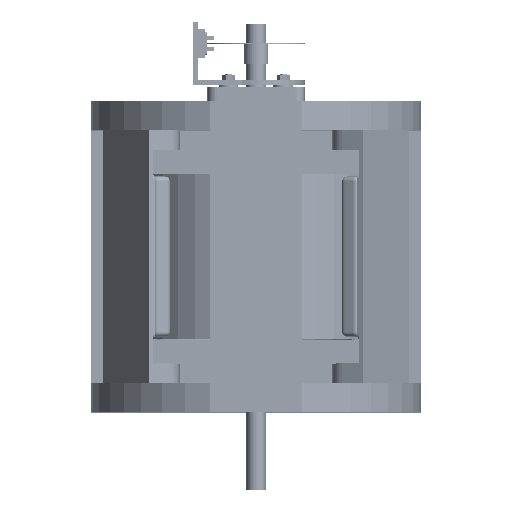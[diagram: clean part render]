
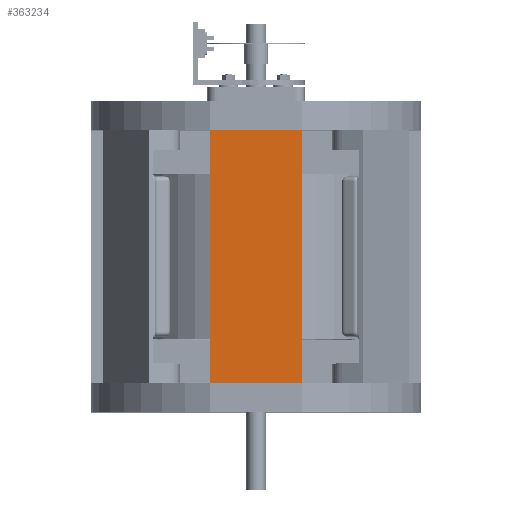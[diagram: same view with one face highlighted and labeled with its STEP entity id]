
A CAD part, top view. The second image highlights one B-rep face of the part: STEP entity #363234.
In plain terms, the highlighted planar face has unit normal (0, 0, 1).
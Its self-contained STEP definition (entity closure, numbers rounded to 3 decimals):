
#363092=CARTESIAN_POINT('',(60.51,165.1,254.));
#363093=VERTEX_POINT('',#363092);
#363094=CARTESIAN_POINT('',(-60.14,165.1,254.));
#363095=VERTEX_POINT('',#363094);
#363096=CARTESIAN_POINT('',(60.51,165.1,254.));
#363097=DIRECTION('',(-1.,0.,0.));
#363098=VECTOR('',#363097,120.65);
#363099=LINE('',#363096,#363098);
#363100=EDGE_CURVE('',#363093,#363095,#363099,.T.);
#363140=CARTESIAN_POINT('',(-60.14,-165.1,254.));
#363141=VERTEX_POINT('',#363140);
#363148=CARTESIAN_POINT('',(-60.14,165.1,254.));
#363149=DIRECTION('',(0.,-1.,0.));
#363150=VECTOR('',#363149,330.2);
#363151=LINE('',#363148,#363150);
#363152=EDGE_CURVE('',#363095,#363141,#363151,.T.);
#363163=CARTESIAN_POINT('',(60.51,-165.1,254.));
#363164=VERTEX_POINT('',#363163);
#363165=CARTESIAN_POINT('',(-60.14,-165.1,254.));
#363166=DIRECTION('',(1.,0.,-0.));
#363167=VECTOR('',#363166,120.65);
#363168=LINE('',#363165,#363167);
#363169=EDGE_CURVE('',#363141,#363164,#363168,.T.);
#363194=CARTESIAN_POINT('',(60.51,-165.1,254.));
#363195=DIRECTION('',(0.,1.,0.));
#363196=VECTOR('',#363195,330.2);
#363197=LINE('',#363194,#363196);
#363198=EDGE_CURVE('',#363164,#363093,#363197,.T.);
#363223=CARTESIAN_POINT('',(0.,0.,254.));
#363224=DIRECTION('',(0.,0.,1.));
#363225=DIRECTION('',(1.,0.,0.));
#363226=AXIS2_PLACEMENT_3D('',#363223,#363224,#363225);
#363227=PLANE('',#363226);
#363228=ORIENTED_EDGE('',*,*,#363152,.T.);
#363229=ORIENTED_EDGE('',*,*,#363169,.T.);
#363230=ORIENTED_EDGE('',*,*,#363198,.T.);
#363231=ORIENTED_EDGE('',*,*,#363100,.T.);
#363232=EDGE_LOOP('',(#363228,#363229,#363230,#363231));
#363233=FACE_BOUND('',#363232,.T.);
#363234=ADVANCED_FACE('',(#363233),#363227,.T.);
